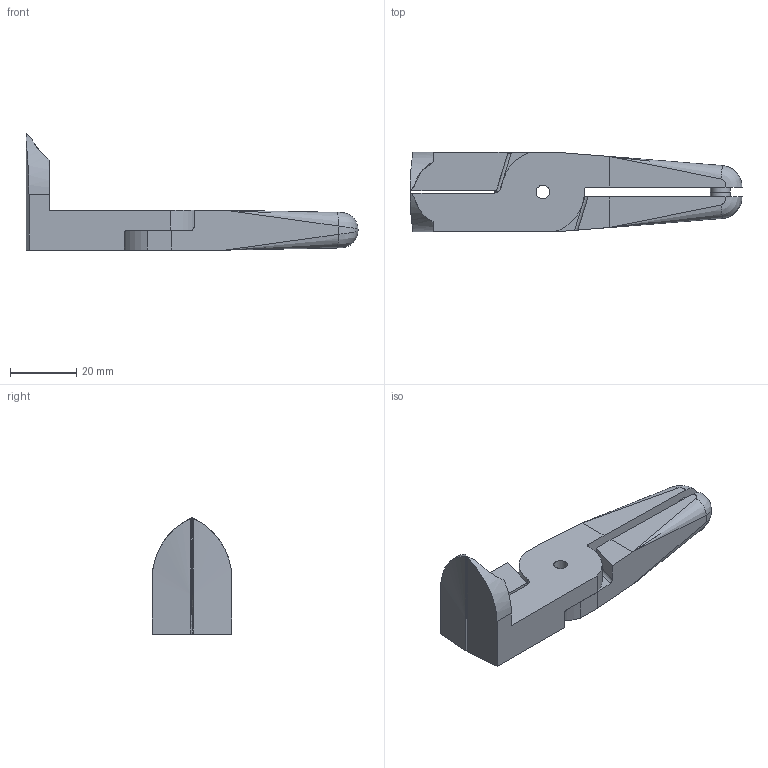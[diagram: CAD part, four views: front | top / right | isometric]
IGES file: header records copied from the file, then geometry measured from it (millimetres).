
Global section: file name: N20AL-3145; native system: unknown; preprocessor: unknown; author: unknown; organization: unknown; date: 20210409.160807; units: millimetre
Bounding box: 100 x 24 x 35 mm (x, y, z)
Volume: 23493.5 mm3; surface area: 10834.3 mm2
Topology: 2 solids, 2 shells, 73 faces, 197 edges, 126 vertices
Faces by surface type: bspline 73
